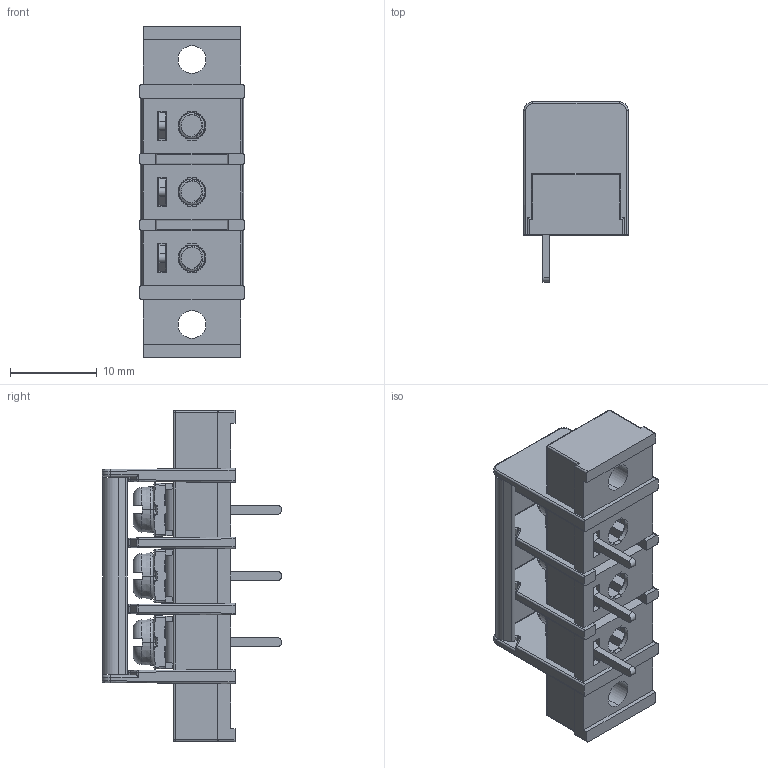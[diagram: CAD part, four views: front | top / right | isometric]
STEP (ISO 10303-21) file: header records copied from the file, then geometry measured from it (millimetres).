
FILE_DESCRIPTION((''),'2;1');
FILE_NAME('3PIN','2021-04-15T',('hanke'),(''),'CREO PARAMETRIC BY PTC INC, 2016260','CREO PARAMETRIC BY PTC INC, 2016260','');
FILE_SCHEMA(('CONFIG_CONTROL_DESIGN'));
Products named in the file (1): 3PIN
Bounding box: 12 x 20.7 x 38.1 mm (x, y, z)
Volume: 2889.2 mm3; surface area: 5872.3 mm2
Topology: 1 solids, 1 shells, 1308 faces, 3893 edges, 2491 vertices
Faces by surface type: plane 713, cylinder 313, bspline 105, torus 80, sphere 61, cone 36
Entity records: 59326 total; most frequent: CARTESIAN_POINT 25757, ORIENTED_EDGE 7742, DIRECTION 6159, EDGE_CURVE 3871, VERTEX_POINT 2491, VECTOR 2139, LINE 2139, AXIS2_PLACEMENT_3D 2010
